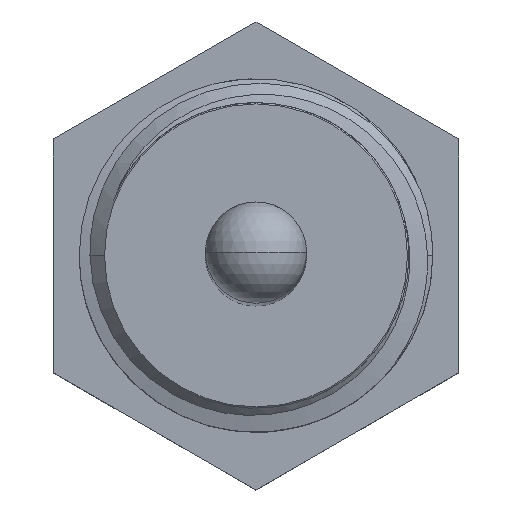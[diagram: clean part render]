
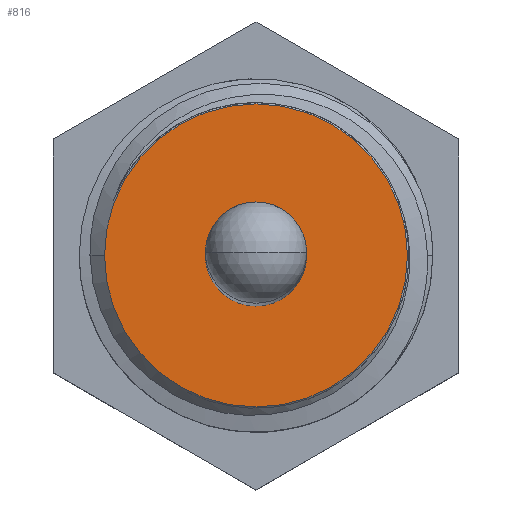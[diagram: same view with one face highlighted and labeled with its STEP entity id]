
A CAD part, top view. The second image highlights one B-rep face of the part: STEP entity #816.
In plain terms, the highlighted planar face has unit normal (0, 0, 1).
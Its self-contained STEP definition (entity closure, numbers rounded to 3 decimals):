
#225 = CARTESIAN_POINT ( 'NONE',  ( 8.977, 0., 25. ) ) ;
#349 = CIRCLE ( 'NONE', #784, 3. ) ;
#413 = ORIENTED_EDGE ( 'NONE', *, *, #1658, .F. ) ;
#431 = CARTESIAN_POINT ( 'NONE',  ( 3., 0., 25. ) ) ;
#463 = CIRCLE ( 'NONE', #2214, 3. ) ;
#470 = AXIS2_PLACEMENT_3D ( 'NONE', #2074, #528, #2315 ) ;
#528 = DIRECTION ( 'NONE',  ( 0., 0., 1. ) ) ;
#597 = CARTESIAN_POINT ( 'NONE',  ( 0., 0., 25. ) ) ;
#784 = AXIS2_PLACEMENT_3D ( 'NONE', #2518, #1024, #2771 ) ;
#816 = ADVANCED_FACE ( 'NONE', ( #2638, #1248 ), #989, .T. ) ;
#830 = VERTEX_POINT ( 'NONE', #225 ) ;
#864 = DIRECTION ( 'NONE',  ( 1., 0., 0. ) ) ;
#989 = PLANE ( 'NONE',  #1770 ) ;
#1024 = DIRECTION ( 'NONE',  ( 0., 0., 1. ) ) ;
#1126 = ORIENTED_EDGE ( 'NONE', *, *, #1135, .T. ) ;
#1135 = EDGE_CURVE ( 'NONE', #1377, #830, #2153, .T. ) ;
#1248 = FACE_OUTER_BOUND ( 'NONE', #2302, .T. ) ;
#1377 = VERTEX_POINT ( 'NONE', #1925 ) ;
#1423 = CARTESIAN_POINT ( 'NONE',  ( 0., 0., 25. ) ) ;
#1514 = DIRECTION ( 'NONE',  ( 0., 0., 1. ) ) ;
#1658 = EDGE_CURVE ( 'NONE', #1915, #3131, #463, .T. ) ;
#1679 = DIRECTION ( 'NONE',  ( 1., 0., 0. ) ) ;
#1770 = AXIS2_PLACEMENT_3D ( 'NONE', #2979, #1514, #3236 ) ;
#1915 = VERTEX_POINT ( 'NONE', #2173 ) ;
#1925 = CARTESIAN_POINT ( 'NONE',  ( -8.977, 0., 25. ) ) ;
#2074 = CARTESIAN_POINT ( 'NONE',  ( 0., 0., 25. ) ) ;
#2153 = CIRCLE ( 'NONE', #470, 8.977 ) ;
#2173 = CARTESIAN_POINT ( 'NONE',  ( -3., 0., 25. ) ) ;
#2207 = EDGE_CURVE ( 'NONE', #3131, #1915, #349, .T. ) ;
#2214 = AXIS2_PLACEMENT_3D ( 'NONE', #597, #2371, #864 ) ;
#2302 = EDGE_LOOP ( 'NONE', ( #1126, #3175 ) ) ;
#2315 = DIRECTION ( 'NONE',  ( 1., 0., 0. ) ) ;
#2371 = DIRECTION ( 'NONE',  ( 0., 0., 1. ) ) ;
#2444 = EDGE_CURVE ( 'NONE', #830, #1377, #2631, .T. ) ;
#2518 = CARTESIAN_POINT ( 'NONE',  ( 0., 0., 25. ) ) ;
#2597 = EDGE_LOOP ( 'NONE', ( #413, #3033 ) ) ;
#2631 = CIRCLE ( 'NONE', #2672, 8.977 ) ;
#2638 = FACE_BOUND ( 'NONE', #2597, .T. ) ;
#2672 = AXIS2_PLACEMENT_3D ( 'NONE', #1423, #3142, #1679 ) ;
#2771 = DIRECTION ( 'NONE',  ( 1., 0., 0. ) ) ;
#2979 = CARTESIAN_POINT ( 'NONE',  ( 0., 0., 25. ) ) ;
#3033 = ORIENTED_EDGE ( 'NONE', *, *, #2207, .F. ) ;
#3131 = VERTEX_POINT ( 'NONE', #431 ) ;
#3142 = DIRECTION ( 'NONE',  ( 0., 0., 1. ) ) ;
#3175 = ORIENTED_EDGE ( 'NONE', *, *, #2444, .T. ) ;
#3236 = DIRECTION ( 'NONE',  ( 1., 0., 0. ) ) ;
